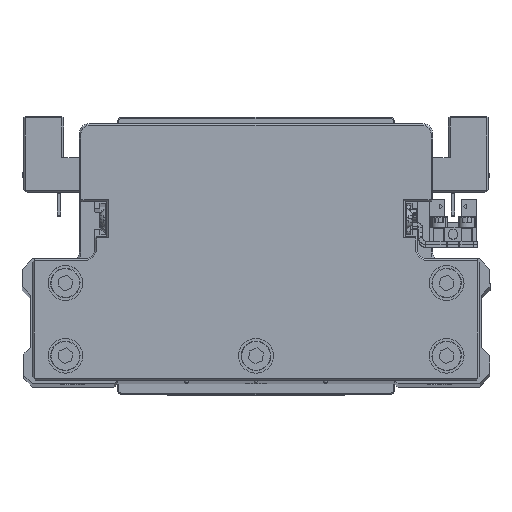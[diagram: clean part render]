
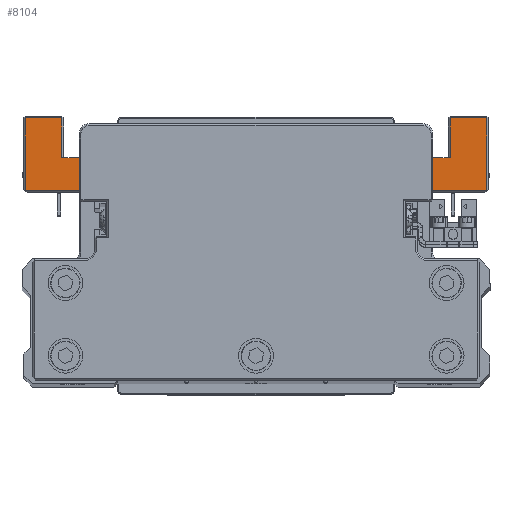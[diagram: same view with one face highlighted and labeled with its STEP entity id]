
A CAD part, top view. The second image highlights one B-rep face of the part: STEP entity #8104.
In plain terms, the highlighted planar face has unit normal (0, 0, 1) as drawn and (0, -1, 0) by its records, which use the part's own axes.
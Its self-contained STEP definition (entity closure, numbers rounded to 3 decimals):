
#603 = CARTESIAN_POINT ( 'NONE',  ( 56., -45., -64. ) ) ;
#883 = CARTESIAN_POINT ( 'NONE',  ( -55.5, -45., -52.5 ) ) ;
#937 = VERTEX_POINT ( 'NONE', #25789 ) ;
#1702 = CARTESIAN_POINT ( 'NONE',  ( -46., -45., -52.5 ) ) ;
#1792 = VERTEX_POINT ( 'NONE', #603 ) ;
#1914 = DIRECTION ( 'NONE',  ( 0., 0., -1. ) ) ;
#2212 = FACE_OUTER_BOUND ( 'NONE', #9975, .T. ) ;
#2421 = EDGE_CURVE ( 'NONE', #34740, #12310, #6630, .T. ) ;
#3030 = ORIENTED_EDGE ( 'NONE', *, *, #32911, .T. ) ;
#3236 = CARTESIAN_POINT ( 'NONE',  ( 46., -45., -52.5 ) ) ;
#3531 = DIRECTION ( 'NONE',  ( -0.991, 0., -0.132 ) ) ;
#3566 = VERTEX_POINT ( 'NONE', #26102 ) ;
#3571 = DIRECTION ( 'NONE',  ( 1., 0., 0. ) ) ;
#3688 = DIRECTION ( 'NONE',  ( 1., 0., 0. ) ) ;
#3809 = EDGE_CURVE ( 'NONE', #937, #1792, #25211, .T. ) ;
#3831 = CARTESIAN_POINT ( 'NONE',  ( -46., -45., -54. ) ) ;
#4565 = DIRECTION ( 'NONE',  ( 0., 0., 1. ) ) ;
#4885 = CARTESIAN_POINT ( 'NONE',  ( -66.5, -45., -43. ) ) ;
#5032 = VECTOR ( 'NONE', #18927, 1000. ) ;
#5229 = VECTOR ( 'NONE', #3571, 1000. ) ;
#5534 = ORIENTED_EDGE ( 'NONE', *, *, #8314, .T. ) ;
#5603 = LINE ( 'NONE', #17913, #19480 ) ;
#5859 = LINE ( 'NONE', #18168, #10515 ) ;
#5860 = CARTESIAN_POINT ( 'NONE',  ( -55.5, -45., -64. ) ) ;
#5988 = CARTESIAN_POINT ( 'NONE',  ( 55.5, -45., -52.5 ) ) ;
#6064 = EDGE_CURVE ( 'NONE', #12584, #19877, #28542, .T. ) ;
#6409 = DIRECTION ( 'NONE',  ( -1., 0., 0. ) ) ;
#6616 = CARTESIAN_POINT ( 'NONE',  ( -77.786, -45., -42.5 ) ) ;
#6630 = LINE ( 'NONE', #18938, #19637 ) ;
#7920 = VERTEX_POINT ( 'NONE', #3831 ) ;
#8104 = ADVANCED_FACE ( 'NONE', ( #2212 ), #14518, .T. ) ;
#8314 = EDGE_CURVE ( 'NONE', #30370, #29901, #34270, .T. ) ;
#8364 = EDGE_CURVE ( 'NONE', #8603, #30370, #10600, .T. ) ;
#8603 = VERTEX_POINT ( 'NONE', #30555 ) ;
#9005 = CARTESIAN_POINT ( 'NONE',  ( -66.5, -45., -64. ) ) ;
#9653 = CIRCLE ( 'NONE', #32206, 1.5 ) ;
#9730 = ORIENTED_EDGE ( 'NONE', *, *, #35251, .T. ) ;
#9869 = DIRECTION ( 'NONE',  ( 0., 0., -1. ) ) ;
#9975 = EDGE_LOOP ( 'NONE', ( #5534, #26544, #3030, #24553, #30784, #9730, #15878, #11406, #25496, #17026, #16430, #22869, #33557, #15412, #27145, #34500, #22112, #25319 ) ) ;
#10461 = DIRECTION ( 'NONE',  ( 0., 1., 0. ) ) ;
#10515 = VECTOR ( 'NONE', #30481, 1000. ) ;
#10600 = LINE ( 'NONE', #22910, #25663 ) ;
#11011 = VERTEX_POINT ( 'NONE', #9005 ) ;
#11406 = ORIENTED_EDGE ( 'NONE', *, *, #6064, .F. ) ;
#11488 = DIRECTION ( 'NONE',  ( 0., 0., -1. ) ) ;
#12310 = VERTEX_POINT ( 'NONE', #30594 ) ;
#12584 = VERTEX_POINT ( 'NONE', #1702 ) ;
#13184 = VERTEX_POINT ( 'NONE', #32938 ) ;
#13187 = DIRECTION ( 'NONE',  ( -1., 0., 0. ) ) ;
#13266 = VERTEX_POINT ( 'NONE', #18382 ) ;
#13729 = EDGE_CURVE ( 'NONE', #29901, #13184, #18878, .T. ) ;
#13873 = CARTESIAN_POINT ( 'NONE',  ( -56., -45., -52.5 ) ) ;
#13937 = EDGE_CURVE ( 'NONE', #12310, #8603, #36784, .T. ) ;
#14406 = VERTEX_POINT ( 'NONE', #4885 ) ;
#14518 = PLANE ( 'NONE',  #33384 ) ;
#15412 = ORIENTED_EDGE ( 'NONE', *, *, #26898, .T. ) ;
#15443 = VECTOR ( 'NONE', #6409, 1000. ) ;
#15542 = DIRECTION ( 'NONE',  ( 0., 0., -1. ) ) ;
#15878 = ORIENTED_EDGE ( 'NONE', *, *, #20387, .T. ) ;
#16056 = VECTOR ( 'NONE', #9869, 1000. ) ;
#16430 = ORIENTED_EDGE ( 'NONE', *, *, #17694, .F. ) ;
#17026 = ORIENTED_EDGE ( 'NONE', *, *, #29875, .T. ) ;
#17245 = CARTESIAN_POINT ( 'NONE',  ( 40.066, -45., -41.5 ) ) ;
#17694 = EDGE_CURVE ( 'NONE', #28946, #28057, #30883, .T. ) ;
#17913 = CARTESIAN_POINT ( 'NONE',  ( -46., -45., -52.5 ) ) ;
#18168 = CARTESIAN_POINT ( 'NONE',  ( -66.5, -45., -64.5 ) ) ;
#18169 = DIRECTION ( 'NONE',  ( 1., 0., 0. ) ) ;
#18302 = DIRECTION ( 'NONE',  ( -1., 0., 0. ) ) ;
#18382 = CARTESIAN_POINT ( 'NONE',  ( 66.5, -45., -64. ) ) ;
#18878 = LINE ( 'NONE', #31187, #39343 ) ;
#18915 = LINE ( 'NONE', #31229, #5229 ) ;
#18927 = DIRECTION ( 'NONE',  ( -1., 0., 0. ) ) ;
#18938 = CARTESIAN_POINT ( 'NONE',  ( 40.066, -45., -43. ) ) ;
#19016 = LINE ( 'NONE', #31337, #35881 ) ;
#19351 = AXIS2_PLACEMENT_3D ( 'NONE', #17245, #29572, #1914 ) ;
#19480 = VECTOR ( 'NONE', #30228, 1000. ) ;
#19637 = VECTOR ( 'NONE', #31250, 1000. ) ;
#19877 = VERTEX_POINT ( 'NONE', #29083 ) ;
#19911 = LINE ( 'NONE', #32227, #19978 ) ;
#19978 = VECTOR ( 'NONE', #4565, 1000. ) ;
#20387 = EDGE_CURVE ( 'NONE', #26463, #19877, #32258, .T. ) ;
#21741 = LINE ( 'NONE', #34050, #15443 ) ;
#22112 = ORIENTED_EDGE ( 'NONE', *, *, #13937, .T. ) ;
#22254 = CARTESIAN_POINT ( 'NONE',  ( -36.217, -45., -42.5 ) ) ;
#22657 = VECTOR ( 'NONE', #18169, 1000. ) ;
#22778 = DIRECTION ( 'NONE',  ( 0., 0., -1. ) ) ;
#22869 = ORIENTED_EDGE ( 'NONE', *, *, #36384, .F. ) ;
#22910 = CARTESIAN_POINT ( 'NONE',  ( 25.802, -45., -41.111 ) ) ;
#24289 = VECTOR ( 'NONE', #15542, 1000. ) ;
#24375 = VECTOR ( 'NONE', #26196, 1000. ) ;
#24553 = ORIENTED_EDGE ( 'NONE', *, *, #25648, .T. ) ;
#25211 = LINE ( 'NONE', #37520, #16056 ) ;
#25291 = VECTOR ( 'NONE', #18302, 1000. ) ;
#25319 = ORIENTED_EDGE ( 'NONE', *, *, #8364, .T. ) ;
#25496 = ORIENTED_EDGE ( 'NONE', *, *, #37572, .F. ) ;
#25648 = EDGE_CURVE ( 'NONE', #3566, #14406, #21741, .T. ) ;
#25663 = VECTOR ( 'NONE', #35226, 1000. ) ;
#25789 = CARTESIAN_POINT ( 'NONE',  ( 56., -45., -52.5 ) ) ;
#25852 = EDGE_CURVE ( 'NONE', #13266, #34740, #19911, .T. ) ;
#26102 = CARTESIAN_POINT ( 'NONE',  ( -40.066, -45., -43. ) ) ;
#26196 = DIRECTION ( 'NONE',  ( 0., 0., 1. ) ) ;
#26463 = VERTEX_POINT ( 'NONE', #33368 ) ;
#26544 = ORIENTED_EDGE ( 'NONE', *, *, #13729, .T. ) ;
#26566 = CARTESIAN_POINT ( 'NONE',  ( 66.5, -45., -43. ) ) ;
#26844 = CARTESIAN_POINT ( 'NONE',  ( 0., -45., 0. ) ) ;
#26898 = EDGE_CURVE ( 'NONE', #1792, #13266, #18915, .T. ) ;
#27145 = ORIENTED_EDGE ( 'NONE', *, *, #25852, .T. ) ;
#28057 = VERTEX_POINT ( 'NONE', #37248 ) ;
#28542 = LINE ( 'NONE', #883, #33246 ) ;
#28946 = VERTEX_POINT ( 'NONE', #34062 ) ;
#29083 = CARTESIAN_POINT ( 'NONE',  ( -56., -45., -52.5 ) ) ;
#29572 = DIRECTION ( 'NONE',  ( 0., 1., 0. ) ) ;
#29875 = EDGE_CURVE ( 'NONE', #7920, #28057, #19016, .T. ) ;
#29901 = VERTEX_POINT ( 'NONE', #22254 ) ;
#30228 = DIRECTION ( 'NONE',  ( 0., 0., 1. ) ) ;
#30370 = VERTEX_POINT ( 'NONE', #38513 ) ;
#30481 = DIRECTION ( 'NONE',  ( 0., 0., -1. ) ) ;
#30555 = CARTESIAN_POINT ( 'NONE',  ( 39.868, -45., -42.987 ) ) ;
#30594 = CARTESIAN_POINT ( 'NONE',  ( 40.066, -45., -43. ) ) ;
#30784 = ORIENTED_EDGE ( 'NONE', *, *, #38407, .T. ) ;
#30883 = LINE ( 'NONE', #3236, #24289 ) ;
#31187 = CARTESIAN_POINT ( 'NONE',  ( -39.868, -45., -42.987 ) ) ;
#31229 = CARTESIAN_POINT ( 'NONE',  ( 67., -45., -64. ) ) ;
#31250 = DIRECTION ( 'NONE',  ( -1., 0., 0. ) ) ;
#31337 = CARTESIAN_POINT ( 'NONE',  ( 46., -45., -54. ) ) ;
#32206 = AXIS2_PLACEMENT_3D ( 'NONE', #38129, #10461, #22778 ) ;
#32227 = CARTESIAN_POINT ( 'NONE',  ( 66.5, -45., -43.5 ) ) ;
#32258 = LINE ( 'NONE', #13873, #24375 ) ;
#32911 = EDGE_CURVE ( 'NONE', #13184, #3566, #9653, .T. ) ;
#32938 = CARTESIAN_POINT ( 'NONE',  ( -39.868, -45., -42.987 ) ) ;
#33246 = VECTOR ( 'NONE', #13187, 1000. ) ;
#33368 = CARTESIAN_POINT ( 'NONE',  ( -56., -45., -64. ) ) ;
#33384 = AXIS2_PLACEMENT_3D ( 'NONE', #26844, #39153, #11488 ) ;
#33518 = LINE ( 'NONE', #5860, #22657 ) ;
#33557 = ORIENTED_EDGE ( 'NONE', *, *, #3809, .T. ) ;
#33638 = LINE ( 'NONE', #5988, #25291 ) ;
#34050 = CARTESIAN_POINT ( 'NONE',  ( -66., -45., -43. ) ) ;
#34062 = CARTESIAN_POINT ( 'NONE',  ( 46., -45., -52.5 ) ) ;
#34270 = LINE ( 'NONE', #6616, #5032 ) ;
#34500 = ORIENTED_EDGE ( 'NONE', *, *, #2421, .T. ) ;
#34740 = VERTEX_POINT ( 'NONE', #26566 ) ;
#35226 = DIRECTION ( 'NONE',  ( -0.991, 0., 0.132 ) ) ;
#35251 = EDGE_CURVE ( 'NONE', #11011, #26463, #33518, .T. ) ;
#35881 = VECTOR ( 'NONE', #3688, 1000. ) ;
#36384 = EDGE_CURVE ( 'NONE', #937, #28946, #33638, .T. ) ;
#36784 = CIRCLE ( 'NONE', #19351, 1.5 ) ;
#37248 = CARTESIAN_POINT ( 'NONE',  ( 46., -45., -54. ) ) ;
#37520 = CARTESIAN_POINT ( 'NONE',  ( 56., -45., -64.5 ) ) ;
#37572 = EDGE_CURVE ( 'NONE', #7920, #12584, #5603, .T. ) ;
#38129 = CARTESIAN_POINT ( 'NONE',  ( -40.066, -45., -41.5 ) ) ;
#38407 = EDGE_CURVE ( 'NONE', #14406, #11011, #5859, .T. ) ;
#38513 = CARTESIAN_POINT ( 'NONE',  ( 36.217, -45., -42.5 ) ) ;
#39153 = DIRECTION ( 'NONE',  ( 0., -1., 0. ) ) ;
#39343 = VECTOR ( 'NONE', #3531, 1000. ) ;
